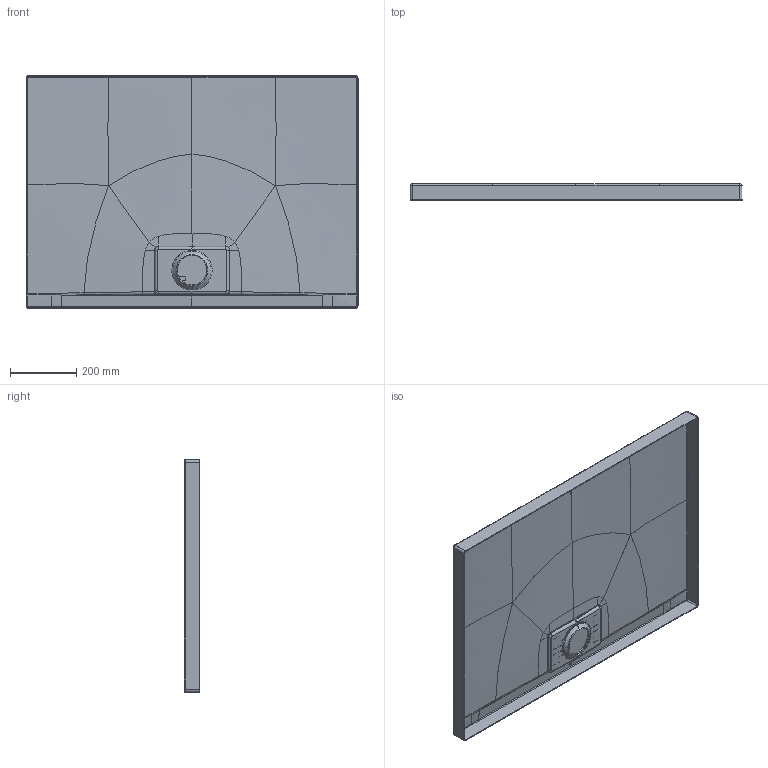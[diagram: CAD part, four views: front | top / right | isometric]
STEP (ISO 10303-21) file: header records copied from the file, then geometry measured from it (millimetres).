
FILE_DESCRIPTION((''),'2;1');
FILE_NAME('UDA1070ARA248_ARCHITECTURA_META_ASM','2022-07-12T13:13:16',('GrootJ'),('Villeroy & Boch Wellness bv'),'CREO PARAMETRIC BY PTC INC, 2020454','CREO PARAMETRIC BY PTC INC, 2020454','');
FILE_SCHEMA(('CONFIG_CONTROL_DESIGN'));
Products named in the file (6): G0500027_22; G0500024_69; G0500026_ASM_11_ASM; METALRIM_COVER_GEPLAATST120722_ASM; METALRIM-LOGO_12072022; UDA1070ARA248_ARCHITECTURA_META_ASM
Assembly tree (5 placements, depth 4):
  UDA1070ARA248_ARCHITECTURA_META_ASM
    METALRIM_COVER_GEPLAATST120722_ASM
      G0500026_ASM_11_ASM
        G0500027_22
        G0500024_69
    METALRIM-LOGO_12072022
Bounding box: 1000 x 48 x 700 mm (x, y, z)
Volume: 119920.3 mm3; surface area: 1809996 mm2
Topology: 30 solids, 33 shells, 1183 faces, 3078 edges, 1924 vertices
Faces by surface type: plane 422, extrusion 239, bspline 177, cylinder 173, cone 114, sphere 36, torus 22
Entity records: 51021 total; most frequent: CARTESIAN_POINT 24894, ORIENTED_EDGE 6108, DIRECTION 4054, EDGE_CURVE 3059, VERTEX_POINT 1926, VECTOR 1550, B_SPLINE_CURVE_WITH_KNOTS 1516, LINE 1311
